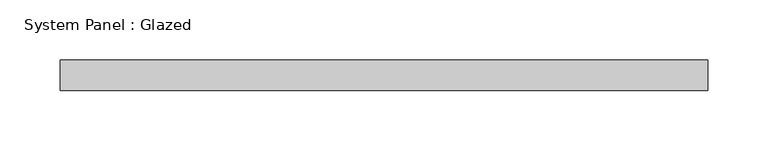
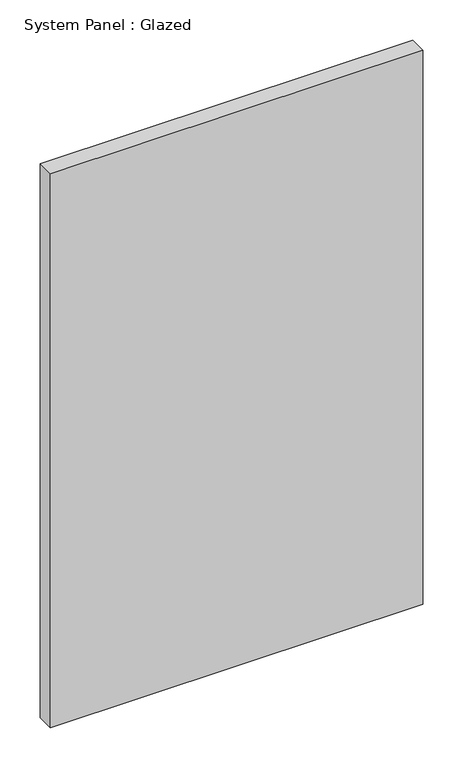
"""IFC4 building model written with IfcOpenShell, lengths in millimetres: plate geometry, System Panel : Glazed."""

from ifc_helpers import new_model, si_unit, origin, origin_with_axes, place, context, project, spatial, polyline, outline, extrude, source, transform, mapped, element, save


def system_panel_glazed_d14ec5e9(model_context):
    return source(origin(), model_context, "Body", "SweptSolid", [
        extrude(outline(polyline([(267.5, 24.5), (-267.5, 24.5), (-267.5, 49.5), (267.5, 49.5), (267.5, 24.5)])), origin_with_axes(), (0.0, 0.0, 1.0), 841.6666667),
    ])


if __name__ == "__main__":
    model = new_model("IFC4")
    model_context = context("Model", 3, world=origin())
    ifc_project = project(units=[si_unit("LENGTHUNIT", "METRE", prefix="MILLI")], contexts=[model_context])
    site = spatial("IfcSite", under=ifc_project)
    building = spatial("IfcBuilding", under=site)
    placement = place(None, origin())
    system_panel_glazed_shape = system_panel_glazed_d14ec5e9(model_context)
    element("IfcPlate", 1, ObjectType="System Panel : Glazed", at=placement, inside=building, context=model_context, shape_type="MappedRepresentation", body=[
        mapped(system_panel_glazed_shape, transform((0.0, 0.0, 0.0), x_axis=(1.0, 0.0, 0.0), y_axis=(0.0, 1.0, 0.0), z_axis=(0.0, 0.0, 1.0))),
    ])
    save(model, "model.ifc")
